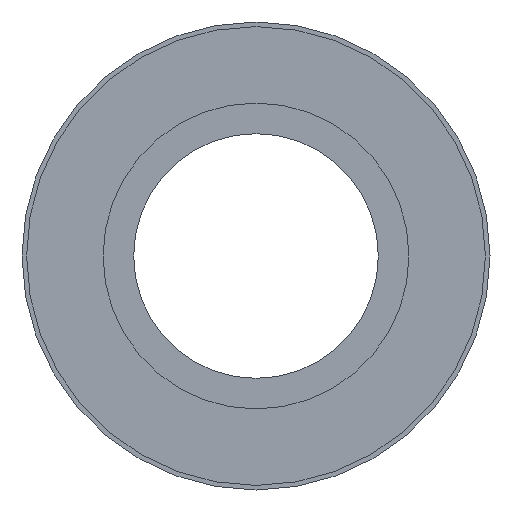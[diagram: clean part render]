
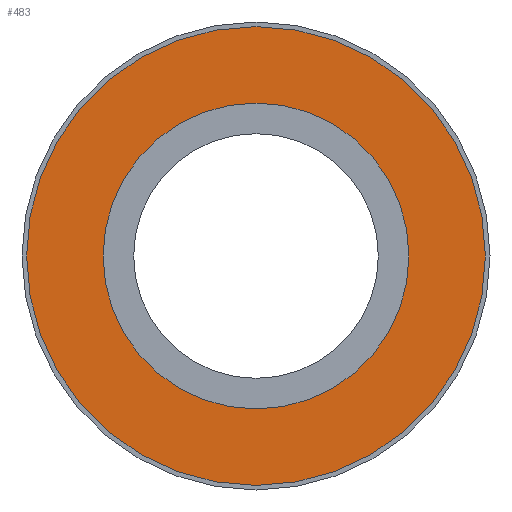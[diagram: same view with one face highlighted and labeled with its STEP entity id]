
A CAD part, left-side view. The second image highlights one B-rep face of the part: STEP entity #483.
In plain terms, the highlighted planar face has unit normal (-1, 0, 0).
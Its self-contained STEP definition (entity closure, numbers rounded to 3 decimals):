
#81=ORIENTED_EDGE('',*,*,#199,.T.);
#82=ORIENTED_EDGE('',*,*,#200,.F.);
#199=EDGE_CURVE('',#258,#258,#305,.T.);
#200=EDGE_CURVE('',#259,#259,#306,.T.);
#258=VERTEX_POINT('',#774);
#259=VERTEX_POINT('',#776);
#305=CIRCLE('',#533,10.);
#306=CIRCLE('',#534,15.);
#340=EDGE_LOOP('',(#81));
#341=EDGE_LOOP('',(#82));
#400=FACE_BOUND('',#340,.T.);
#401=FACE_BOUND('',#341,.T.);
#460=PLANE('',#532);
#483=ADVANCED_FACE('',(#400,#401),#460,.T.);
#532=AXIS2_PLACEMENT_3D('',#772,#605,#606);
#533=AXIS2_PLACEMENT_3D('',#773,#607,#608);
#534=AXIS2_PLACEMENT_3D('',#775,#609,#610);
#605=DIRECTION('',(-1.,0.,0.));
#606=DIRECTION('',(0.,0.,1.));
#607=DIRECTION('',(1.,0.,0.));
#608=DIRECTION('',(0.,0.,-1.));
#609=DIRECTION('',(1.,0.,0.));
#610=DIRECTION('',(0.,0.,-1.));
#772=CARTESIAN_POINT('',(0.,15.,0.));
#773=CARTESIAN_POINT('',(0.,0.,0.));
#774=CARTESIAN_POINT('',(0.,0.,-10.));
#775=CARTESIAN_POINT('',(0.,0.,0.));
#776=CARTESIAN_POINT('',(0.,0.,-15.));
